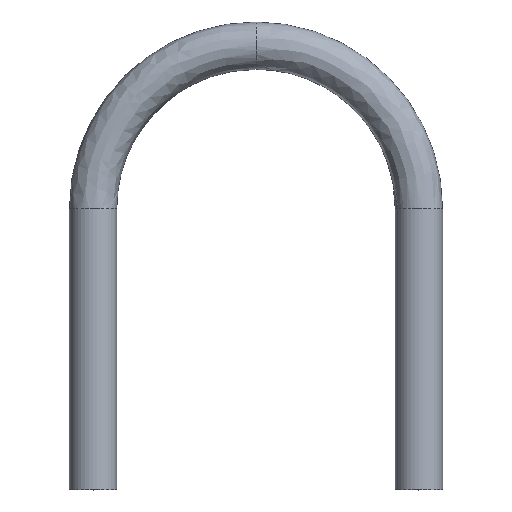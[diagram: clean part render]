
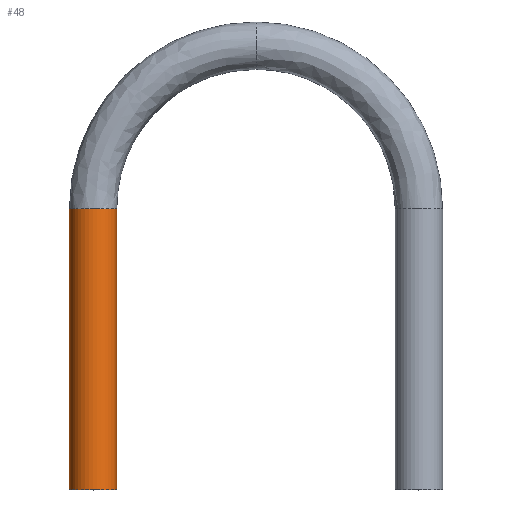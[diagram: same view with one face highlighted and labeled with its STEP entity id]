
A CAD part, top view. The second image highlights one B-rep face of the part: STEP entity #48.
In plain terms, the highlighted cylindrical face has radius 6.35 mm (diameter 12.7 mm), a partial arc.
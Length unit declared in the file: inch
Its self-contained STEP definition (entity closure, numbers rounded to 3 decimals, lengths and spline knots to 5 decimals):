
#48=ADVANCED_FACE('',(#98),#99,.T.);
#98=FACE_OUTER_BOUND('',#153,.T.);
#99=CYLINDRICAL_SURFACE('',#154,0.25);
#153=EDGE_LOOP('',(#469,#470,#471,#472));
#154=AXIS2_PLACEMENT_3D('',#473,#474,#475);
#469=ORIENTED_EDGE('',*,*,#536,.F.);
#470=ORIENTED_EDGE('',*,*,#537,.T.);
#471=ORIENTED_EDGE('',*,*,#538,.F.);
#472=ORIENTED_EDGE('',*,*,#539,.T.);
#473=CARTESIAN_POINT('',(0.0,0.0,0.0));
#474=DIRECTION('',(-0.0,-1.0,-0.0));
#475=DIRECTION('',(-1.0,0.0,0.0));
#536=EDGE_CURVE('',#565,#566,#567,.T.);
#537=EDGE_CURVE('',#565,#568,#569,.T.);
#538=EDGE_CURVE('',#570,#568,#571,.T.);
#539=EDGE_CURVE('',#570,#566,#572,.T.);
#565=VERTEX_POINT('',#604);
#566=VERTEX_POINT('',#605);
#567=LINE('',#606,#607);
#568=VERTEX_POINT('',#608);
#569=CIRCLE('',#609,0.25);
#570=VERTEX_POINT('',#610);
#571=LINE('',#611,#612);
#572=CIRCLE('',#613,0.25);
#604=CARTESIAN_POINT('',(-0.25,0.0,0.0));
#605=CARTESIAN_POINT('',(-0.25,2.9685,0.0));
#606=CARTESIAN_POINT('',(-0.25,0.0,0.));
#607=VECTOR('',#666,1.0);
#608=CARTESIAN_POINT('',(0.25,0.0,0.));
#609=AXIS2_PLACEMENT_3D('',#667,#668,#669);
#610=CARTESIAN_POINT('',(0.25,2.9685,0.));
#611=CARTESIAN_POINT('',(0.25,0.0,0.));
#612=VECTOR('',#670,1.0);
#613=AXIS2_PLACEMENT_3D('',#671,#672,#673);
#666=DIRECTION('',(0.0,1.0,0.0));
#667=CARTESIAN_POINT('',(0.0,0.0,0.0));
#668=DIRECTION('',(0.0,1.0,0.0));
#669=DIRECTION('',(-1.0,0.0,0.0));
#670=DIRECTION('',(-0.0,-1.0,-0.0));
#671=CARTESIAN_POINT('',(0.0,2.9685,0.0));
#672=DIRECTION('',(-0.0,-1.0,-0.0));
#673=DIRECTION('',(-1.0,0.0,0.0));
